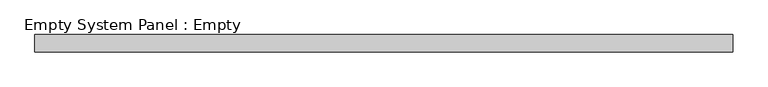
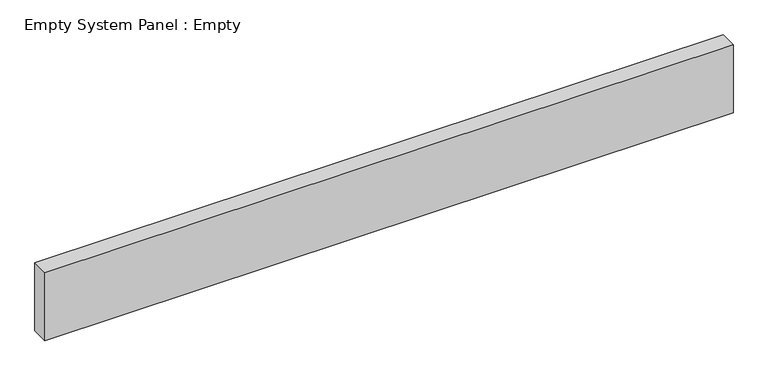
"""IFC4 building model written with IfcOpenShell, lengths in millimetres: plate geometry, Empty System Panel : Empty."""

from ifc_helpers import new_model, si_unit, origin, origin_with_axes, place, context, project, spatial, polyline, outline, extrude, source, transform, mapped, element, save


def empty_system_panel_empty_ffccf032(model_context):
    return source(origin(), model_context, "Body", "SweptSolid", [
        extrude(outline(polyline([(2000.0, -150.0), (-2000.0, -150.0), (-2000.0, -50.0), (2000.0, -50.0), (2000.0, -150.0)])), origin_with_axes(), (0.0, 0.0, 1.0), 418.4),
    ])


if __name__ == "__main__":
    model = new_model("IFC4")
    model_context = context("Model", 3, world=origin())
    ifc_project = project(units=[si_unit("LENGTHUNIT", "METRE", prefix="MILLI")], contexts=[model_context])
    site = spatial("IfcSite", under=ifc_project)
    building = spatial("IfcBuilding", under=site)
    placement = place(None, origin())
    empty_system_panel_empty_shape = empty_system_panel_empty_ffccf032(model_context)
    element("IfcPlate", 1, ObjectType="Empty System Panel : Empty", at=placement, inside=building, context=model_context, shape_type="MappedRepresentation", body=[
        mapped(empty_system_panel_empty_shape, transform((0.0, 0.0, 0.0), x_axis=(1.0, 0.0, 0.0), y_axis=(0.0, 1.0, 0.0), z_axis=(0.0, 0.0, 1.0))),
    ])
    save(model, "model.ifc")
